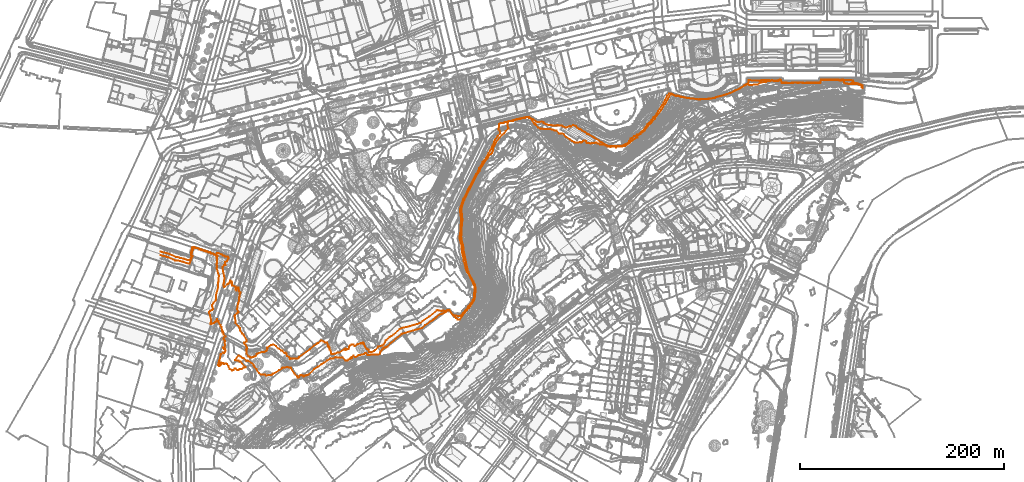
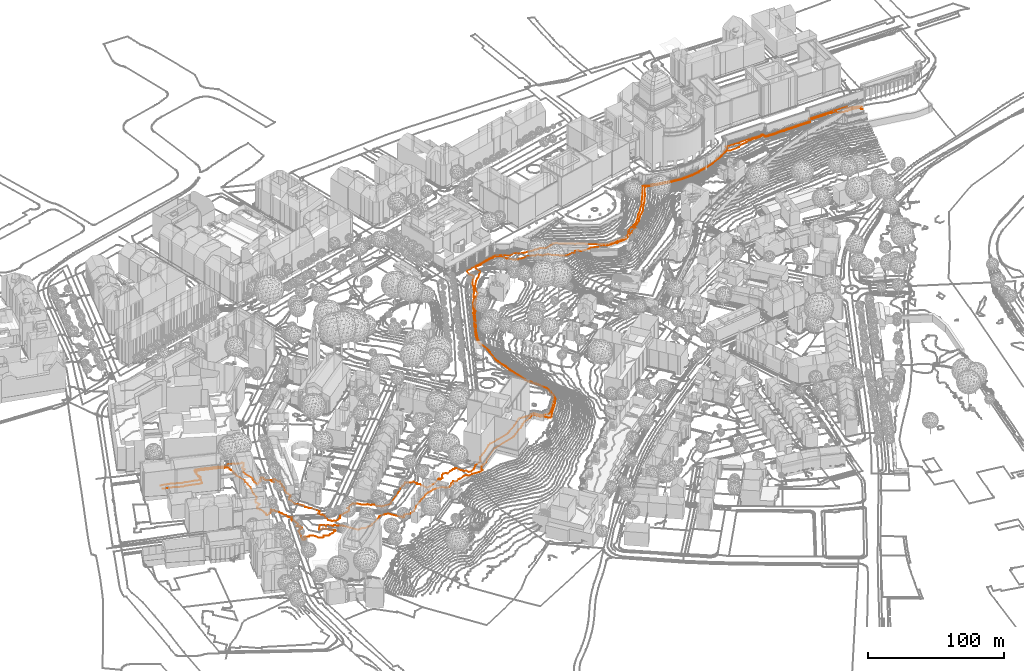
# Not in any storey, part 158 of 477: 2 geographic elements.
"""IFC4 model written with IfcOpenShell, lengths in metres."""

from ifc_helpers import new_model, entity, si_unit, frame, origin_with_axes, place, context, subcontext, project, spatial, element, save


model = new_model("IFC4")

# Units and contexts
model_context = context("Model", 3, precision=1e-05, world=origin_with_axes())
body_context = subcontext(model_context, "Body", "Model", "MODEL_VIEW")
ifc_project = project(units=[si_unit("AREAUNIT", "SQUARE_METRE"), si_unit("LENGTHUNIT", "METRE")], contexts=[model_context])

# Sites
site_1_placement = place(None, origin_with_axes())
site_1 = spatial("IfcSite", under=ifc_project, at=site_1_placement, Name="Topoexport Site")
site_2_placement = place(site_1_placement, origin_with_axes())
site_2 = spatial("IfcSite", under=site_1, at=site_2_placement, Name="TPX_CONTOUR_LINES")

# Geographic elements
geographic_element_1_placement = place(site_2_placement, frame((-0.8222679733, 191.2147211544, 531.0), z_axis=(0.0, 0.0, 1.0), x_axis=(1.0, 0.0, 0.0)))
element("IfcGeographicElement", 1, at=geographic_element_1_placement, inside=site_2, Name="Contour Line 531.0 m", PredefinedType="NOTDEFINED", context=body_context, shape_type="GeometricCurveSet", body=[
    entity("IfcGeometricCurveSet", [entity("IfcIndexedPolyCurve", entity("IfcCartesianPointList3D", [[689.0, 162.4514007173, 0.0], [688.5, 162.4514007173, 0.0], [688.3017090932, 162.955994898, 0.0], [687.5, 163.4491100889, 0.0], [682.5, 165.3537713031, 0.0], [678.1356611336, 165.955994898, 0.0], [678.9633027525, 166.955994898, 0.0], [679.1717703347, 167.955994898, 0.0], [672.5, 168.4833761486, 0.0], [670.5, 168.3550307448, 0.0], [668.5, 168.8629275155, 0.0], [666.5, 168.5154458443, 0.0], [647.5, 168.6757421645, 0.0], [647.1555095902, 166.955994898, 0.0], [646.5, 165.7306068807, 0.0], [634.5, 165.7901349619, 0.0], [631.5, 165.5093490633, 0.0], [627.5, 165.8897820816, 0.0], [624.5, 165.6233838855, 0.0], [621.5, 166.0012598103, 0.0], [616.5, 165.3482960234, 0.0], [612.5, 165.7757841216, 0.0], [609.5, 165.5703684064, 0.0], [609.0508085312, 165.955994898, 0.0], [608.5, 168.3870257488, 0.0], [607.5, 168.5708056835, 0.0], [604.5, 167.9569100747, 0.0], [601.5, 167.8620408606, 0.0], [599.5, 168.2418382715, 0.0], [597.5, 167.6438098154, 0.0], [596.5, 168.1658316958, 0.0], [589.5, 168.0579813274, 0.0], [588.4399751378, 167.955994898, 0.0], [587.5, 167.3552003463, 0.0], [586.2896634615, 167.955994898, 0.0], [584.1098511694, 167.955994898, 0.0], [583.5, 167.6362252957, 0.0], [581.9015927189, 167.955994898, 0.0], [576.5, 168.0915260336, 0.0], [576.4039367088, 165.955994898, 0.0], [574.5, 164.1559966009, 0.0], [572.5, 163.1358502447, 0.0], [568.5, 160.4583922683, 0.0], [564.5, 158.3712164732, 0.0], [563.5, 158.1970922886, 0.0], [562.5, 157.3966363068, 0.0], [555.5, 154.5558333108, 0.0], [548.5, 152.4163149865, 0.0], [546.5, 152.1208457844, 0.0], [542.5, 150.6510369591, 0.0], [537.5, 149.9415679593, 0.0], [527.5, 149.3991060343, 0.0], [516.5, 150.7055416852, 0.0], [508.5, 152.3861780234, 0.0], [506.5, 153.1540002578, 0.0], [505.5, 152.9028683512, 0.0], [500.7056484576, 154.955994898, 0.0], [498.5, 155.0229722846, 0.0], [496.7698637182, 152.955994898, 0.0], [494.5, 148.8180638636, 0.0], [493.5, 146.381785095, 0.0], [487.9580704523, 137.955994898, 0.0], [486.2825708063, 134.955994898, 0.0], [483.5301433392, 131.955994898, 0.0], [481.5, 129.1425918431, 0.0], [477.5, 125.0813308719, 0.0], [474.5, 120.7648184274, 0.0], [468.5, 114.9414623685, 0.0], [467.5, 114.7197799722, 0.0], [465.5, 113.5241371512, 0.0], [464.5, 113.3296352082, 0.0], [460.8167662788, 110.955994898, 0.0], [460.9291169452, 109.955994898, 0.0], [460.5362703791, 108.955994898, 0.0], [459.5, 108.3774743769, 0.0], [456.5, 105.4360618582, 0.0], [451.5, 103.7315316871, 0.0], [449.5, 103.7952897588, 0.0], [446.5, 103.2625233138, 0.0], [445.5, 103.507433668, 0.0], [442.5, 103.5955057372, 0.0], [441.5, 103.2861212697, 0.0], [438.5, 103.5300764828, 0.0], [437.5, 104.4044142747, 0.0], [436.5, 104.4391379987, 0.0], [435.5, 105.3919346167, 0.0], [433.5, 106.3494658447, 0.0], [432.5, 107.2811727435, 0.0], [431.5, 107.5349317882, 0.0], [429.7877815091, 108.955994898, 0.0], [425.5, 111.2729029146, 0.0], [424.5, 112.2126633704, 0.0], [420.0595057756, 114.955994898, 0.0], [418.5, 115.5508958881, 0.0], [416.5, 117.0724589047, 0.0], [413.5, 118.5334175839, 0.0], [411.5, 120.1621933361, 0.0], [410.5, 120.4081991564, 0.0], [408.5, 121.6336170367, 0.0], [407.7126873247, 122.955994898, 0.0], [404.5, 124.1961068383, 0.0], [402.5, 122.866331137, 0.0], [401.5, 123.0649223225, 0.0], [397.5, 121.7652778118, 0.0], [394.5, 122.8542518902, 0.0], [393.5, 123.5512833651, 0.0], [390.5, 123.6460899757, 0.0], [389.5, 123.931462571, 0.0], [387.5, 123.6613248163, 0.0], [384.5, 123.8836356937, 0.0], [383.5, 124.2107477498, 0.0], [380.5, 124.2676268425, 0.0], [376.5, 125.4225643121, 0.0], [375.7358063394, 125.955994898, 0.0], [375.4424171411, 126.955994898, 0.0], [373.5, 127.7218718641, 0.0], [371.5, 127.0872479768, 0.0], [369.5, 127.0456786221, 0.0], [368.5, 127.4647904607, 0.0], [365.0405492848, 129.955994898, 0.0], [363.5, 130.4449572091, 0.0], [361.4176389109, 131.955994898, 0.0], [360.5, 132.2348745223, 0.0], [358.5, 132.0659110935, 0.0], [356.5, 131.2901006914, 0.0], [354.5, 131.1545557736, 0.0], [349.4816050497, 129.955994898, 0.0], [346.0227840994, 128.955994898, 0.0], [345.5, 128.5187909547, 0.0], [341.5, 128.0701025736, 0.0], [340.5, 127.319297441, 0.0], [337.5401415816, 126.955994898, 0.0], [336.5, 126.1581161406, 0.0], [333.3797195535, 125.955994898, 0.0], [332.2056300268, 124.955994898, 0.0], [331.6588447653, 120.955994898, 0.0], [331.6370420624, 119.955994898, 0.0], [332.5527638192, 118.955994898, 0.0], [332.8990256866, 117.955994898, 0.0], [333.0546012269, 116.955994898, 0.0], [332.7557692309, 115.955994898, 0.0], [330.5, 113.3776973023, 0.0], [328.3202798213, 109.955994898, 0.0], [327.2451267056, 107.955994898, 0.0], [326.5, 105.3514637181, 0.0], [325.5822932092, 103.955994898, 0.0], [323.317288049, 98.955994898, 0.0], [321.5, 96.603120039, 0.0], [319.023850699, 91.955994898, 0.0], [316.0339586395, 87.955994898, 0.0], [312.5634179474, 81.955994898, 0.0], [311.3821025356, 78.955994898, 0.0], [309.2299668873, 75.955994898, 0.0], [304.3180741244, 65.955994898, 0.0], [301.4861837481, 60.955994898, 0.0], [297.3508689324, 51.955994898, 0.0], [296.6617345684, 50.955994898, 0.0], [294.1770209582, 43.955994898, 0.0], [293.6887506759, 39.955994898, 0.0], [294.4426054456, 35.955994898, 0.0], [294.7593105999, 30.955994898, 0.0], [293.8901320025, 17.955994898, 0.0], [293.1910602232, 14.955994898, 0.0], [293.3188100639, 12.955994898, 0.0], [293.7948166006, 11.955994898, 0.0], [294.3453011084, 8.955994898, 0.0], [295.0311123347, 6.955994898, 0.0], [295.8285174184, -1.044005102, 0.0], [297.1587837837, -6.044005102, 0.0], [297.4174964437, -9.044005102, 0.0], [298.1620055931, -11.044005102, 0.0], [299.501670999, -17.044005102, 0.0], [300.6461086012, -20.044005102, 0.0], [301.6934181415, -21.044005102, 0.0], [303.8683089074, -25.044005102, 0.0], [304.0459083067, -26.044005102, 0.0], [305.5, -28.2497513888, 0.0], [307.9479768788, -34.044005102, 0.0], [308.0999154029, -36.044005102, 0.0], [307.4857470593, -42.044005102, 0.0], [307.5167975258, -45.044005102, 0.0], [306.4293562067, -47.044005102, 0.0], [306.2020453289, -48.044005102, 0.0], [301.5, -53.7270499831, 0.0], [300.9185409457, -55.044005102, 0.0], [296.5, -60.0092901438, 0.0], [296.0392959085, -61.044005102, 0.0], [293.5, -63.14297521, 0.0], [292.5, -63.3043442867, 0.0], [289.5, -62.5113341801, 0.0], [288.5, -62.7361835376, 0.0], [287.5, -62.2706002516, 0.0], [283.5, -57.0937709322, 0.0], [282.5, -57.3096950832, 0.0], [281.5, -57.1002373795, 0.0], [279.5, -58.0794999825, 0.0], [276.5, -57.6833461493, 0.0], [275.5, -58.1168895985, 0.0], [271.5, -57.2924409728, 0.0], [270.5, -57.7896121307, 0.0], [263.5, -63.6586901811, 0.0], [256.7648774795, -68.044005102, 0.0], [254.5, -69.9754117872, 0.0], [243.5, -73.2288053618, 0.0], [236.5, -74.7802058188, 0.0], [234.5, -75.9771392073, 0.0], [228.5, -81.1103180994, 0.0], [226.5, -82.6832149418, 0.0], [224.5, -83.8002730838, 0.0], [221.5, -86.3617055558, 0.0], [220.9000665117, -87.044005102, 0.0], [218.9526986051, -91.044005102, 0.0], [217.5, -91.7860655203, 0.0], [213.5, -93.0830595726, 0.0], [210.5, -96.5717278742, 0.0], [209.5, -97.2999480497, 0.0], [206.5, -98.4966305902, 0.0], [204.5, -98.3775833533, 0.0], [203.952074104, -96.044005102, 0.0], [202.5, -95.5468197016, 0.0], [202.0633869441, -95.044005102, 0.0], [200.7566941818, -93.044005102, 0.0], [199.5, -89.9630941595, 0.0], [198.5, -88.8842794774, 0.0], [197.5, -90.0654295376, 0.0], [196.5, -89.4012715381, 0.0], [195.6026570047, -90.044005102, 0.0], [193.5, -90.4745135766, 0.0], [190.5, -92.3244497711, 0.0], [189.211962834, -91.044005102, 0.0], [187.5, -90.8595461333, 0.0], [185.9332579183, -92.044005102, 0.0], [185.1641345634, -93.044005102, 0.0], [184.5, -95.4043654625, 0.0], [183.5, -95.4742839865, 0.0], [182.5, -95.9968846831, 0.0], [181.5, -94.9132679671, 0.0], [181.2868480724, -95.044005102, 0.0], [182.4444444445, -96.044005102, 0.0], [181.5, -96.2550395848, 0.0], [180.5, -95.417525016, 0.0], [175.5, -98.6256695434, 0.0], [173.5, -98.8556233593, 0.0], [170.8185550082, -100.044005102, 0.0], [168.5, -100.3281495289, 0.0], [167.4858156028, -100.044005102, 0.0], [166.924796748, -97.044005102, 0.0], [166.0425219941, -96.044005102, 0.0], [165.8106435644, -94.044005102, 0.0], [165.5, -93.5739676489, 0.0], [164.2140255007, -93.044005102, 0.0], [164.7618069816, -92.044005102, 0.0], [164.0916955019, -91.044005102, 0.0], [163.5541871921, -89.044005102, 0.0], [161.5, -89.244237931, 0.0], [159.913336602, -88.044005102, 0.0], [158.1518065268, -87.044005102, 0.0], [157.5, -86.9492531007, 0.0], [154.5, -89.6866879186, 0.0], [153.5, -90.0200056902, 0.0], [150.5, -91.8508644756, 0.0], [146.5, -95.5179188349, 0.0], [136.1279249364, -103.044005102, 0.0], [135.5, -104.3882741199, 0.0], [134.5, -104.9617656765, 0.0], [128.5, -104.830880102, 0.0], [127.1576980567, -105.044005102, 0.0], [126.8396674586, -104.044005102, 0.0], [125.9999876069, -103.044005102, 0.0], [124.270677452, -102.044005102, 0.0], [123.5328373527, -100.044005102, 0.0], [122.533938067, -99.044005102, 0.0], [121.5, -99.2331105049, 0.0], [119.5899038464, -97.044005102, 0.0], [118.5, -96.7270812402, 0.0], [115.7907379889, -95.044005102, 0.0], [113.5, -92.5865292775, 0.0], [110.5, -90.8099829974, 0.0], [108.5, -91.5969462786, 0.0], [104.5, -94.0072853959, 0.0], [104.9803188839, -95.044005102, 0.0], [104.2364394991, -97.044005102, 0.0], [103.5, -97.5613475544, 0.0], [101.5, -98.2644636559, 0.0], [99.5, -98.1808960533, 0.0], [95.5, -99.6640335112, 0.0], [94.5, -100.3093829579, 0.0], [93.3473053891, -102.044005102, 0.0], [92.5, -102.5502662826, 0.0], [90.5, -103.4203252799, 0.0], [88.5, -103.8396681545, 0.0], [87.9311270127, -103.044005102, 0.0], [86.5, -102.5661908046, 0.0], [84.6228733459, -100.044005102, 0.0], [84.4448709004, -97.044005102, 0.0], [84.1035087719, -96.044005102, 0.0], [84.7752293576, -95.044005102, 0.0], [84.9189336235, -94.044005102, 0.0], [83.9344978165, -92.044005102, 0.0], [82.5, -90.0609133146, 0.0], [82.2283813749, -89.044005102, 0.0], [84.2669064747, -88.044005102, 0.0], [84.6311663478, -87.044005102, 0.0], [84.5, -86.729326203, 0.0], [81.5621725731, -81.044005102, 0.0], [80.0926711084, -80.044005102, 0.0], [78.3236104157, -77.044005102, 0.0], [78.0003452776, -75.044005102, 0.0], [76.6265444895, -73.044005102, 0.0], [73.808809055, -70.044005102, 0.0], [73.5736220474, -69.044005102, 0.0], [73.4128708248, -65.044005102, 0.0], [72.947468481, -63.044005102, 0.0], [73.1316298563, -62.044005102, 0.0], [74.5, -60.5529979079, 0.0], [75.5, -60.0234659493, 0.0], [76.4979446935, -59.044005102, 0.0], [75.3928623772, -56.044005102, 0.0], [75.4639818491, -54.044005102, 0.0], [76.1104142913, -51.044005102, 0.0], [77.1404833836, -48.044005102, 0.0], [76.9664441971, -46.044005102, 0.0], [77.1547413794, -45.044005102, 0.0], [77.8151041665, -44.044005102, 0.0], [77.8034128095, -42.044005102, 0.0], [78.425831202, -40.044005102, 0.0], [77.3388278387, -39.044005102, 0.0], [76.5, -35.2399234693, 0.0], [75.5, -35.0739328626, 0.0], [74.6185599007, -37.044005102, 0.0], [74.5, -37.9802796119, 0.0], [73.8413793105, -37.044005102, 0.0], [73.5912951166, -36.044005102, 0.0], [74.0142857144, -35.044005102, 0.0], [73.5, -34.340880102, 0.0], [70.3355555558, -33.044005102, 0.0], [69.9660936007, -31.044005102, 0.0], [70.0632458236, -30.044005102, 0.0], [69.7087378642, -29.044005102, 0.0], [68.5, -28.3243683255, 0.0], [67.6354330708, -30.044005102, 0.0], [66.7383690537, -31.044005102, 0.0], [66.5, -31.8700920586, 0.0], [65.4540636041, -32.044005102, 0.0], [62.5, -34.689013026, 0.0], [62.230463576, -34.044005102, 0.0], [61.8243333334, -31.044005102, 0.0], [62.2485828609, -30.044005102, 0.0], [62.2479387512, -28.044005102, 0.0], [63.0283582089, -26.044005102, 0.0], [61.4618044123, -19.044005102, 0.0], [60.9414003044, -15.044005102, 0.0], [61.5, -14.5881044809, 0.0], [62.5, -12.8862892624, 0.0], [63.8143507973, -13.044005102, 0.0], [63.210796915, -11.044005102, 0.0], [63.5, -10.0484298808, 0.0], [65.5359420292, -9.044005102, 0.0], [65.7878848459, -8.044005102, 0.0], [66.9637843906, -6.044005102, 0.0], [66.5363538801, -5.044005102, 0.0], [63.5, -4.6486102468, 0.0], [62.5, -3.7970766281, 0.0], [61.5, -3.7901304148, 0.0], [60.5, -2.7877191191, 0.0], [56.5, -1.5085680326, 0.0], [55.5, -1.5183048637, 0.0], [54.5, -2.7425384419, 0.0], [52.5, -2.4385427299, 0.0], [51.5, -1.7666239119, 0.0], [49.5, -1.2836582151, 0.0], [48.5, -0.5722982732, 0.0], [47.5, -0.5002732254, 0.0], [45.5, 0.4312169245, 0.0], [41.5, 1.5520217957, 0.0], [39.5, 2.5608489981, 0.0], [38.5, 2.5837278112, 0.0], [36.5, 3.5752902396, 0.0], [35.5, 3.6455464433, 0.0], [32.5, 4.6764112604, 0.0], [31.275851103, 3.955994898, 0.0], [31.6419225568, 2.955994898, 0.0], [31.2730508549, 1.955994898, 0.0], [30.4564120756, 0.955994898, 0.0], [30.5310961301, -0.044005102, 0.0], [30.076083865, -1.044005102, 0.0], [30.1970212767, -3.044005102, 0.0], [30.6835077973, -4.044005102, 0.0], [29.5, -7.0026165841, 0.0], [28.5, -8.299356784, 0.0], [26.5, -8.1788070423, 0.0], [23.5, -6.9569424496, 0.0], [19.5, -6.1759149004, 0.0], [16.5, -5.1255379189, 0.0], [15.5, -5.2274913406, 0.0], [7.5, -1.8449570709, 0.0], [0.0, 0.0, 0.0]]))]),
])
geographic_element_2_placement = place(site_2_placement, frame((-0.8222679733, 187.7511530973, 530.0), z_axis=(0.0, 0.0, 1.0), x_axis=(1.0, 0.0, 0.0)))
element("IfcGeographicElement", 2, at=geographic_element_2_placement, inside=site_2, Name="Contour Line 530.0 m", PredefinedType="NOTDEFINED", context=body_context, shape_type="GeometricCurveSet", body=[
    entity("IfcGeometricCurveSet", [entity("IfcIndexedPolyCurve", entity("IfcCartesianPointList3D", [[689.0, 164.0816943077, 0.0], [688.5, 164.0816943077, 0.0], [687.5, 164.6820305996, 0.0], [687.2372801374, 166.4195629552, 0.0], [683.5, 167.6568427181, 0.0], [679.5, 167.9940662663, 0.0], [677.5, 167.6192970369, 0.0], [676.5, 168.0866307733, 0.0], [674.5, 167.9253926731, 0.0], [673.5, 168.2936674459, 0.0], [671.6505454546, 168.4195629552, 0.0], [670.2691408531, 169.4195629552, 0.0], [670.348598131, 171.4195629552, 0.0], [647.5, 171.7349367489, 0.0], [647.1134714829, 169.4195629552, 0.0], [646.5, 168.9634208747, 0.0], [634.5, 169.0141113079, 0.0], [631.5, 168.7550592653, 0.0], [627.5, 169.110875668, 0.0], [624.5, 168.8929436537, 0.0], [622.5, 169.2275411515, 0.0], [616.5, 168.5575528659, 0.0], [612.5, 168.9898319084, 0.0], [609.5, 168.8450261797, 0.0], [608.8307591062, 169.4195629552, 0.0], [608.5, 171.5368382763, 0.0], [607.5, 171.6099947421, 0.0], [605.5, 171.0021847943, 0.0], [601.5, 170.721233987, 0.0], [599.5, 171.3919167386, 0.0], [597.5, 170.5260138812, 0.0], [595.5, 170.9549983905, 0.0], [593.5, 169.9471816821, 0.0], [588.919521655, 169.4195629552, 0.0], [585.5, 167.5648126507, 0.0], [577.5, 166.7603372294, 0.0], [575.5, 167.6949280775, 0.0], [574.5, 167.4800598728, 0.0], [573.5, 166.7178173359, 0.0], [572.5, 166.5022075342, 0.0], [568.5, 163.8048857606, 0.0], [558.5, 159.0277564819, 0.0], [552.5, 156.9666293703, 0.0], [544.5, 154.8636247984, 0.0], [543.5, 154.2575864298, 0.0], [537.5, 153.3015099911, 0.0], [527.5, 152.7463401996, 0.0], [525.5, 153.1822765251, 0.0], [519.5, 153.6760766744, 0.0], [510.5, 155.2426817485, 0.0], [507.5, 156.0141604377, 0.0], [506.5, 156.5249374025, 0.0], [505.5, 156.1206923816, 0.0], [504.5, 156.6720617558, 0.0], [503.5, 156.8286038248, 0.0], [502.5, 157.5344853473, 0.0], [500.5, 157.734155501, 0.0], [499.9210648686, 157.4195629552, 0.0], [497.5, 153.6735312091, 0.0], [494.9540843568, 148.4195629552, 0.0], [493.5, 146.5663008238, 0.0], [491.0351067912, 142.4195629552, 0.0], [485.5811222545, 135.4195629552, 0.0], [484.5, 133.3028063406, 0.0], [480.8593130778, 129.4195629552, 0.0], [479.4730169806, 128.4195629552, 0.0], [474.5, 122.2515405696, 0.0], [472.5, 120.8439492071, 0.0], [470.5, 118.9513625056, 0.0], [468.5, 117.6678757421, 0.0], [467.3324688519, 117.4195629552, 0.0], [466.7585431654, 116.4195629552, 0.0], [467.6712608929, 115.4195629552, 0.0], [466.5, 115.1954961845, 0.0], [463.5, 113.2459921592, 0.0], [462.5, 112.3071820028, 0.0], [460.9451851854, 111.4195629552, 0.0], [460.2487320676, 110.4195629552, 0.0], [455.5, 107.1996225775, 0.0], [451.5, 106.4591371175, 0.0], [447.5, 106.4630853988, 0.0], [446.5, 105.466316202, 0.0], [446.1718135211, 106.4195629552, 0.0], [445.5, 106.6442822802, 0.0], [442.5, 106.6947825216, 0.0], [441.5, 106.1474260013, 0.0], [440.5, 106.6380982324, 0.0], [438.5, 106.6439102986, 0.0], [437.5, 107.495364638, 0.0], [436.5, 107.5699549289, 0.0], [435.5, 108.4802564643, 0.0], [431.0496575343, 108.4195629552, 0.0], [429.5, 109.2893758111, 0.0], [428.4891646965, 109.4195629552, 0.0], [427.5, 110.27595047, 0.0], [426.5, 110.3832756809, 0.0], [425.5, 109.876871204, 0.0], [421.5, 109.7289400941, 0.0], [418.5, 110.1795258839, 0.0], [417.5460405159, 110.4195629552, 0.0], [417.5, 111.7714737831, 0.0], [415.5, 112.5187796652, 0.0], [414.5, 112.0538534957, 0.0], [413.5, 111.0120611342, 0.0], [412.5, 110.6975480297, 0.0], [411.5, 111.178950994, 0.0], [409.5, 110.5716865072, 0.0], [406.5, 110.6129987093, 0.0], [405.5, 110.8960073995, 0.0], [403.5, 111.9258797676, 0.0], [401.5, 113.5357216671, 0.0], [397.5, 115.9951323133, 0.0], [395.5, 118.545799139, 0.0], [393.5, 119.4011163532, 0.0], [390.9861205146, 119.4195629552, 0.0], [388.5, 122.0901210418, 0.0], [386.5, 122.151169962, 0.0], [384.5, 123.0753600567, 0.0], [381.5, 123.8658882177, 0.0], [375.5, 123.7923295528, 0.0], [373.5, 124.3285190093, 0.0], [372.5, 123.6372547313, 0.0], [370.5, 125.3735401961, 0.0], [370.0571736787, 125.4195629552, 0.0], [368.0391891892, 127.4195629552, 0.0], [367.5, 128.4426212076, 0.0], [366.5, 129.0101141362, 0.0], [363.7010676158, 133.4195629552, 0.0], [362.5, 134.4200219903, 0.0], [361.5, 134.495336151, 0.0], [360.5, 135.4331790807, 0.0], [359.0143076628, 135.4195629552, 0.0], [357.5, 134.5653494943, 0.0], [354.5, 134.4927056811, 0.0], [353.5, 133.8028968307, 0.0], [350.1621352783, 133.4195629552, 0.0], [349.5, 132.9528651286, 0.0], [346.4408072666, 132.4195629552, 0.0], [345.5, 131.6327665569, 0.0], [341.6265448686, 131.4195629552, 0.0], [340.6932880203, 130.4195629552, 0.0], [340.4394580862, 128.4195629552, 0.0], [340.449122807, 126.4195629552, 0.0], [341.0639143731, 125.4195629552, 0.0], [341.2315727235, 124.4195629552, 0.0], [338.5, 121.6588323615, 0.0], [336.9367425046, 119.4195629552, 0.0], [335.3899730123, 118.4195629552, 0.0], [332.3821518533, 115.4195629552, 0.0], [328.5, 109.9269158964, 0.0], [326.290341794, 105.4195629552, 0.0], [325.9809721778, 102.4195629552, 0.0], [325.1925249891, 100.4195629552, 0.0], [324.2652045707, 99.4195629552, 0.0], [322.2835845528, 98.4195629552, 0.0], [320.879373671, 95.4195629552, 0.0], [316.5, 89.4240457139, 0.0], [313.5, 84.4545431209, 0.0], [312.7639490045, 82.4195629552, 0.0], [310.5551263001, 79.4195629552, 0.0], [302.9886427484, 64.4195629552, 0.0], [302.1408364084, 63.4195629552, 0.0], [297.9380423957, 54.4195629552, 0.0], [295.7126853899, 48.4195629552, 0.0], [295.1084602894, 44.4195629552, 0.0], [295.2132469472, 42.4195629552, 0.0], [295.7025359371, 40.4195629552, 0.0], [296.1156845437, 34.4195629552, 0.0], [295.6651040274, 31.4195629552, 0.0], [294.9600845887, 18.4195629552, 0.0], [295.2719992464, 15.4195629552, 0.0], [296.9054170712, 9.4195629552, 0.0], [297.3913930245, 4.4195629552, 0.0], [301.0141083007, -13.5804370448, 0.0], [301.9929163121, -16.5804370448, 0.0], [306.8492954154, -25.5804370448, 0.0], [307.4224215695, -27.5804370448, 0.0], [308.3106804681, -28.5804370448, 0.0], [308.9435943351, -31.5804370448, 0.0], [309.148586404, -34.5804370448, 0.0], [308.4420442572, -38.5804370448, 0.0], [308.1193967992, -42.5804370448, 0.0], [307.3743497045, -44.5804370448, 0.0], [302.6553596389, -51.5804370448, 0.0], [300.5, -53.748589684, 0.0], [295.7434137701, -59.5804370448, 0.0], [293.5, -62.8362179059, 0.0], [292.5, -63.2526332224, 0.0], [291.5, -62.8979227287, 0.0], [289.8782628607, -61.5804370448, 0.0], [288.3772643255, -59.5804370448, 0.0], [287.5, -59.3461746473, 0.0], [286.7313282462, -58.5804370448, 0.0], [283.5, -54.2540463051, 0.0], [281.5, -54.2910085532, 0.0], [279.5, -55.8480058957, 0.0], [278.5, -56.0247250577, 0.0], [276.5, -57.344183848, 0.0], [273.5, -58.1446125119, 0.0], [270.5, -60.3813145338, 0.0], [269.7402142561, -61.5804370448, 0.0], [268.5, -62.3199125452, 0.0], [267.2177489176, -63.5804370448, 0.0], [264.5, -65.0684425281, 0.0], [259.5, -68.6240055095, 0.0], [256.5, -71.1944786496, 0.0], [237.5, -76.7407687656, 0.0], [236.5, -77.3510419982, 0.0], [225.5, -86.0502973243, 0.0], [222.5, -89.4085514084, 0.0], [220.5, -90.3511463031, 0.0], [218.9568965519, -90.5804370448, 0.0], [218.905982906, -91.5804370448, 0.0], [217.1122994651, -92.5804370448, 0.0], [215.7946996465, -94.5804370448, 0.0], [215.5, -95.1694200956, 0.0], [215.443051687, -96.5804370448, 0.0], [213.5, -97.5492201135, 0.0], [207.5, -97.2527122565, 0.0], [206.2129783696, -97.5804370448, 0.0], [203.5, -97.6776058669, 0.0], [202.5, -97.361438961, 0.0], [201.5, -95.6986448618, 0.0], [200.5, -95.9406804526, 0.0], [199.5, -96.7071131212, 0.0], [195.5, -97.9583499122, 0.0], [194.5, -97.9582077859, 0.0], [191.5, -99.7368102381, 0.0], [190.7444444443, -99.5804370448, 0.0], [189.5, -98.1554685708, 0.0], [187.3261504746, -99.5804370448, 0.0], [188.0926773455, -100.5804370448, 0.0], [186.5, -100.9495055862, 0.0], [185.9722140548, -101.5804370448, 0.0], [184.5, -102.2617609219, 0.0], [183.5, -103.1924753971, 0.0], [181.5, -103.2722106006, 0.0], [178.5, -100.5289832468, 0.0], [171.5, -100.0017724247, 0.0], [169.5, -101.0494931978, 0.0], [166.5, -101.4055684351, 0.0], [163.5, -103.0368353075, 0.0], [160.5, -105.2859216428, 0.0], [157.8918164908, -106.5804370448, 0.0], [154.5, -109.2497725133, 0.0], [150.5, -111.5173772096, 0.0], [145.5, -117.0487284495, 0.0], [143.5, -117.4949305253, 0.0], [142.5, -118.1459683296, 0.0], [141.5, -118.1624372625, 0.0], [140.5, -118.8418471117, 0.0], [139.5, -117.886198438, 0.0], [137.5, -117.301931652, 0.0], [136.3356256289, -118.5804370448, 0.0], [135.5, -120.05640747, 0.0], [134.5, -119.8624428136, 0.0], [133.9588495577, -118.5804370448, 0.0], [131.5, -115.867109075, 0.0], [127.8982093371, -110.5804370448, 0.0], [127.5, -110.2769932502, 0.0], [124.5, -109.6847300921, 0.0], [120.5, -110.0889725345, 0.0], [119.5, -110.5431401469, 0.0], [116.5, -112.7568133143, 0.0], [110.5, -116.0304047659, 0.0], [109.5, -117.0882947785, 0.0], [108.0405405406, -117.5804370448, 0.0], [106.5, -117.2250524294, 0.0], [103.5, -118.1196219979, 0.0], [102.5, -117.1854527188, 0.0], [101.5, -116.8881921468, 0.0], [98.5, -117.0862075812, 0.0], [96.6486810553, -115.5804370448, 0.0], [94.1364201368, -111.5804370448, 0.0], [92.5, -109.5638351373, 0.0], [91.5, -107.6936769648, 0.0], [89.5, -105.8335832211, 0.0], [85.5, -103.2799930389, 0.0], [84.4401574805, -103.5804370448, 0.0], [81.5, -100.8670543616, 0.0], [80.5, -100.6606868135, 0.0], [78.5, -99.0723917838, 0.0], [76.5, -98.1490483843, 0.0], [73.2173839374, -102.5804370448, 0.0], [74.5, -103.3274930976, 0.0], [76.5, -103.2678638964, 0.0], [77.5, -104.2025568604, 0.0], [78.5, -104.3592349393, 0.0], [83.3615384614, -109.5804370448, 0.0], [82.5, -110.1066704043, 0.0], [81.5, -110.2967447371, 0.0], [79.5, -111.7020492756, 0.0], [77.5, -111.5927177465, 0.0], [76.5, -112.751366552, 0.0], [75.5, -112.6912390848, 0.0], [73.5, -111.2914158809, 0.0], [72.5, -111.0888303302, 0.0], [71.5, -112.4422256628, 0.0], [70.5, -112.8105740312, 0.0], [67.9517241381, -111.5804370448, 0.0], [66.6276252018, -108.5804370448, 0.0], [65.3174386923, -106.5804370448, 0.0], [64.5, -106.0456776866, 0.0], [63.5, -105.9807866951, 0.0], [62.5, -106.6936445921, 0.0], [61.5, -105.922034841, 0.0], [60.5, -105.9832148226, 0.0], [59.5, -104.9622034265, 0.0], [58.8835227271, -105.5804370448, 0.0], [59.444785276, -106.5804370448, 0.0], [59.1241201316, -107.5804370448, 0.0], [58.5, -108.3193259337, 0.0], [57.5, -108.5410381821, 0.0], [56.6939331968, -107.5804370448, 0.0], [57.4742500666, -103.5804370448, 0.0], [57.9489259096, -102.5804370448, 0.0], [59.1446886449, -97.5804370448, 0.0], [59.5, -96.8780012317, 0.0], [61.5, -95.2762661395, 0.0], [62.5, -95.7232941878, 0.0], [63.5, -94.5648728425, 0.0], [63.7561592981, -93.5804370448, 0.0], [63.5, -91.6159209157, 0.0], [62.5, -92.0881293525, 0.0], [61.4208407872, -90.5804370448, 0.0], [63.6003861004, -88.5804370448, 0.0], [63.0590465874, -85.5804370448, 0.0], [63.4045801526, -83.5804370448, 0.0], [62.0965909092, -82.5804370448, 0.0], [62.173076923, -81.5804370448, 0.0], [62.6630252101, -80.5804370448, 0.0], [63.9691891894, -79.5804370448, 0.0], [61.7454991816, -77.5804370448, 0.0], [61.8597633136, -76.5804370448, 0.0], [61.06091954, -75.5804370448, 0.0], [61.4791122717, -74.5804370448, 0.0], [60.6942857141, -73.5804370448, 0.0], [59.9116059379, -71.5804370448, 0.0], [60.1958314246, -70.5804370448, 0.0], [59.0967413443, -69.5804370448, 0.0], [59.1507177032, -68.5804370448, 0.0], [56.9708588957, -65.5804370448, 0.0], [57.067219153, -64.5804370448, 0.0], [56.5, -64.2868240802, 0.0], [55.5, -62.746496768, 0.0], [55.0558572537, -63.5804370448, 0.0], [55.0463556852, -64.5804370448, 0.0], [54.5, -65.0517650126, 0.0], [53.5, -65.4504731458, 0.0], [52.5, -66.3838558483, 0.0], [49.4008264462, -67.5804370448, 0.0], [49.0267094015, -66.5804370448, 0.0], [49.7592360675, -65.5804370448, 0.0], [49.800707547, -63.5804370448, 0.0], [48.6828291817, -58.5804370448, 0.0], [47.8163818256, -56.5804370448, 0.0], [47.9581231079, -55.5804370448, 0.0], [48.5219530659, -54.5804370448, 0.0], [50.5272727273, -53.5804370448, 0.0], [51.6873905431, -52.5804370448, 0.0], [50.6135701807, -49.5804370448, 0.0], [50.8398058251, -48.5804370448, 0.0], [51.9003416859, -46.5804370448, 0.0], [53.8801235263, -44.5804370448, 0.0], [54.4546391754, -43.5804370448, 0.0], [54.4532526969, -39.5804370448, 0.0], [56.7824824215, -30.5804370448, 0.0], [56.786095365, -26.5804370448, 0.0], [57.171815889, -25.5804370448, 0.0], [56.8181216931, -22.5804370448, 0.0], [57.4325633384, -20.5804370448, 0.0], [55.310469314, -12.5804370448, 0.0], [55.6581067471, -10.5804370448, 0.0], [55.2427876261, -9.5804370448, 0.0], [55.2146451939, -8.5804370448, 0.0], [55.6932187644, -7.5804370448, 0.0], [55.7609031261, -6.5804370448, 0.0], [55.5129577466, -4.5804370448, 0.0], [55.6693344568, -3.5804370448, 0.0], [55.2679919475, -2.5804370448, 0.0], [55.9115446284, -0.5804370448, 0.0], [54.5, -0.1475180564, 0.0], [54.0495914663, 0.4195629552, 0.0], [52.5, 0.6197014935, 0.0], [51.1846733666, 1.4195629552, 0.0], [49.5, 1.7545060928, 0.0], [48.5, 2.5759260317, 0.0], [46.5, 2.9293535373, 0.0], [45.5, 3.5845348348, 0.0], [43.5, 3.921961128, 0.0], [42.5, 4.5606399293, 0.0], [40.5, 5.094724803, 0.0], [39.5, 5.7857328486, 0.0], [38.5, 5.7990572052, 0.0], [36.5, 6.8109640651, 0.0], [34.5, 7.0917673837, 0.0], [32.5, 7.8906489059, 0.0], [31.7383623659, 7.4195629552, 0.0], [32.0374420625, 6.4195629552, 0.0], [31.8554327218, 5.4195629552, 0.0], [31.175987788, 4.4195629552, 0.0], [30.6700052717, 1.4195629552, 0.0], [30.6567960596, 0.4195629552, 0.0], [31.5585345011, -0.5804370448, 0.0], [28.5, -8.1560928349, 0.0], [25.5, -7.7742527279, 0.0], [22.5, -6.52625685, 0.0], [16.5, -5.0016398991, 0.0], [14.5, -5.0582345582, 0.0], [6.5, -1.5655922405, 0.0], [0.0, 0.0, 0.0]]))]),
])

save(model, "model.ifc")
